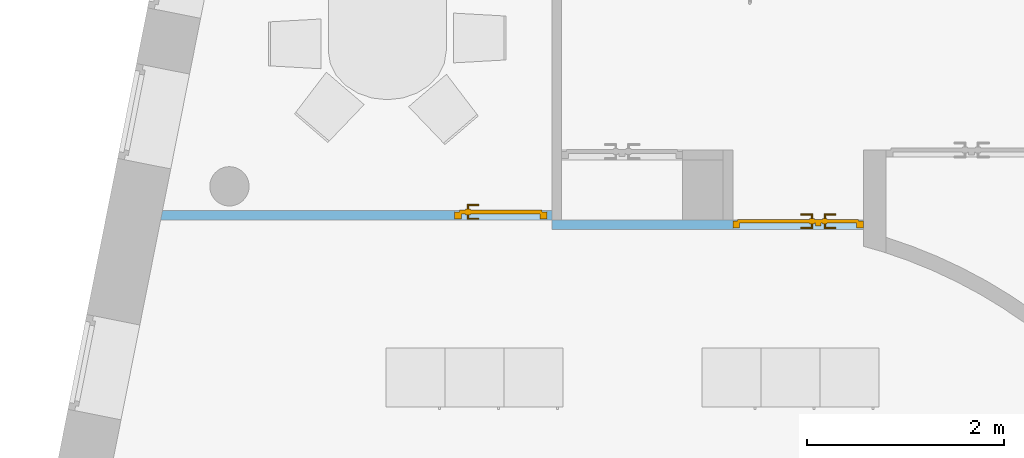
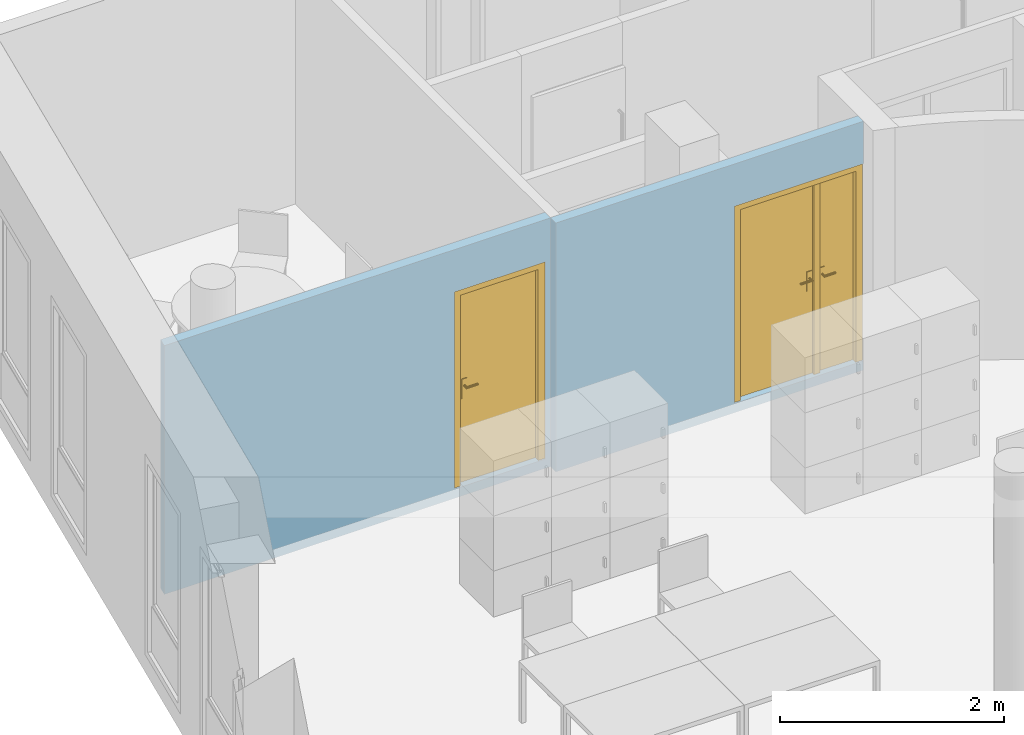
"""IFC4 building model written with IfcOpenShell, lengths in metres."""

from ifc_helpers import new_model, entity, si_unit, converted_unit, derived_unit, frame, frame_2d, origin, origin_with_axes, place, context, subcontext, project, spatial, polyline, rectangle, outline, extrude, faceted_brep, source, transform, mapped, material, layer, layer_set, layer_usage, element, fill, save


model = new_model("IFC4")

# Units and contexts
model_context = context("Model", 3, precision=1e-05, world=origin())
body_context = subcontext(model_context, "Body", "Model", "MODEL_VIEW")
ifc_project = project(units=[si_unit("LENGTHUNIT", "METRE"), si_unit("AREAUNIT", "SQUARE_METRE"), si_unit("VOLUMEUNIT", "CUBIC_METRE"), si_unit("MASSUNIT", "GRAM", prefix="KILO"), converted_unit("PLANEANGLEUNIT", "DEGREE", entity("IfcPlaneAngleMeasure", 0.0174532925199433), si_unit("PLANEANGLEUNIT", "RADIAN"), dimensions=[0, 0, 0, 0, 0, 0, 0]), derived_unit("THERMALTRANSMITTANCEUNIT", [(si_unit("POWERUNIT", "WATT"), 1), (si_unit("THERMODYNAMICTEMPERATUREUNIT", "KELVIN"), -1), (si_unit("LENGTHUNIT", "METRE"), -2)]), derived_unit("VOLUMETRICFLOWRATEUNIT", [(si_unit("LENGTHUNIT", "METRE"), 3), (converted_unit("TIMEUNIT", "hour", entity("IfcTimeMeasure", 3600.0), si_unit("TIMEUNIT", "SECOND"), dimensions=[0, 0, 1, 0, 0, 0, 0]), -1), (si_unit("LENGTHUNIT", "METRE"), -1)])], contexts=[model_context])

# Building, storeys
building_placement = place(None, origin())
building = spatial("IfcBuilding", under=ifc_project, at=building_placement, Name="HABITATGE PLURIFAMILIAR", CompositionType="ELEMENT")
storey_1_placement = place(building_placement, frame((0.0, 0.0, 15.28)))
storey_1 = spatial("IfcBuildingStorey", under=building, at=storey_1_placement, Name="PLANTA QUARTA", CompositionType="ELEMENT", Elevation=15.28)
storey_2_placement = place(storey_1_placement, frame((0.0, 0.0, 12.27)))
storey_2 = spatial("IfcBuildingStorey", under=storey_1, at=storey_2_placement, Name="NOU", CompositionType="PARTIAL")

# Wall, opening, door
ifc_material_1 = material()
ifc_layer_1 = layer(ifc_material_1, 0.1)
ifc_layer_set_1 = layer_set([ifc_layer_1])
ifc_layer_usage_1 = layer_usage(ifc_layer_set_1, "AXIS2", "POSITIVE", 0.0)
wall_1_placement = place(storey_2_placement, frame((404.336984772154, 23.4194598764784, -12.37)))
wall_1 = element("IfcWall", 1, at=wall_1_placement, inside=storey_2, material=ifc_layer_usage_1, Name="Evans P4", context=body_context, shape_type="SweptSolid", body=[
    extrude(rectangle(XDim=3.16904787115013, YDim=0.1, at=frame_2d((1.58452393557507, 0.05), x_axis=(1.0, 0.0))), origin_with_axes(), (0.0, 0.0, 1.0), 2.71),
])
opening_1_placement = place(wall_1_placement, frame((1.84, 0.0, 0.1), z_axis=(0.0, 1.0, 0.0), x_axis=(0.0, 0.0, 1.0)))
opening_1 = element("IfcOpeningElement", 2, at=opening_1_placement, cuts=wall_1, Name="Vano porta P4", ObjectType="Opening", context=body_context, shape_type="SweptSolid", body=[
    extrude(outline(polyline([(2.15, 1.32904787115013), (2.15, 0.0), (0.0, 0.0), (0.0, 1.32904787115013), (2.15, 1.32904787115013)])), origin_with_axes(), (0.0, 0.0, 1.0), 0.1),
])
shared_shape_1 = source(origin_with_axes(), body_context, "Body", "Brep", [
    faceted_brep([(0.0, 0.07, 2.15), (0.0, 0.07, 0.0), (0.07, 0.07, 0.0), (0.07, 0.07, 2.15), (0.0, 0.0, 0.0), (0.0, 0.0, 2.15), (0.07, 0.0, 2.15), (0.07, 0.0, 0.0)], [[[0, 1, 2, 3]], [[4, 5, 6, 7]], [[1, 0, 5, 4]], [[2, 1, 4, 7]], [[3, 2, 7, 6]], [[0, 3, 6, 5]]], orient=[[False], [False], [False], [False], [False], [False]]),
    faceted_brep([(1.25904787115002, 0.07, 2.15), (1.25904787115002, 0.07, 0.0), (1.32904787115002, 0.07, 0.0), (1.32904787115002, 0.07, 2.15), (1.25904787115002, 0.0, 0.0), (1.25904787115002, 0.0, 2.15), (1.32904787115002, 0.0, 2.15), (1.32904787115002, 0.0, 0.0)], [[[0, 1, 2, 3]], [[4, 5, 6, 7]], [[1, 0, 5, 4]], [[2, 1, 4, 7]], [[3, 2, 7, 6]], [[0, 3, 6, 5]]], orient=[[False], [False], [False], [False], [False], [False]]),
    faceted_brep([(0.07, 0.07, 2.15), (0.07, 0.07, 2.08), (1.25904787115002, 0.07, 2.08), (1.25904787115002, 0.07, 2.15), (0.07, 0.0, 2.08), (0.07, 0.0, 2.15), (1.25904787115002, 0.0, 2.15), (1.25904787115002, 0.0, 2.08)], [[[0, 1, 2, 3]], [[4, 5, 6, 7]], [[1, 0, 5, 4]], [[2, 1, 4, 7]], [[3, 2, 7, 6]], [[0, 3, 6, 5]]], orient=[[False], [False], [False], [False], [False], [False]]),
    faceted_brep([(0.05, 0.09, 2.1), (0.05, 0.09, 0.0), (0.87, 0.09, 0.0), (0.87, 0.09, 2.1), (0.05, 0.05, 0.0), (0.05, 0.05, 2.1), (0.87, 0.05, 2.1), (0.87, 0.05, 0.0)], [[[0, 1, 2, 3]], [[4, 5, 6, 7]], [[1, 0, 5, 4]], [[2, 1, 4, 7]], [[3, 2, 7, 6]], [[0, 3, 6, 5]]], orient=[[False], [False], [False], [False], [False], [False]]),
    faceted_brep([(0.84, 0.05, 2.08), (0.84, 0.05, 0.0), (0.9, 0.05, 0.0), (0.9, 0.05, 2.08), (0.84, 0.02, 0.0), (0.84, 0.02, 2.08), (0.9, 0.02, 2.08), (0.9, 0.02, 0.0)], [[[0, 1, 2, 3]], [[4, 5, 6, 7]], [[1, 0, 5, 4]], [[2, 1, 4, 7]], [[3, 2, 7, 6]], [[0, 3, 6, 5]]], orient=[[False], [False], [False], [False], [False], [False]]),
    faceted_brep([(0.78, 0.05, 1.125), (0.78, 0.05, 0.91), (0.83, 0.05, 0.91), (0.83, 0.05, 1.125), (0.78, 0.04, 0.91), (0.78, 0.04, 1.125), (0.83, 0.04, 1.125), (0.83, 0.04, 0.91)], [[[0, 1, 2, 3]], [[4, 5, 6, 7]], [[1, 0, 5, 4]], [[2, 1, 4, 7]], [[3, 2, 7, 6]], [[0, 3, 6, 5]]], orient=[[False], [False], [False], [False], [False], [False]]),
    faceted_brep([(0.805, 0.04, 1.06), (0.8, 0.04, 1.05866025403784), (0.796339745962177, 0.04, 1.055), (0.795, 0.04, 1.05), (0.796339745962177, 0.04, 1.045), (0.8, 0.04, 1.04133974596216), (0.805, 0.04, 1.04), (0.81, 0.04, 1.04133974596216), (0.813660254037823, 0.04, 1.045), (0.815, 0.04, 1.05), (0.813660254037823, 0.04, 1.055), (0.81, 0.04, 1.05866025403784), (0.81, -0.005, 1.05866025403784), (0.805, 0.0, 1.06), (0.813660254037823, -0.00866025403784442, 1.055), (0.815, -0.01, 1.05), (0.813660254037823, -0.00866025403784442, 1.045), (0.81, -0.005, 1.04133974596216), (0.805, 0.0, 1.04), (0.8, 0.005, 1.04133974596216), (0.796339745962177, 0.00866025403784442, 1.045), (0.795, 0.01, 1.05), (0.796339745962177, 0.00866025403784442, 1.055), (0.8, 0.005, 1.05866025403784), (0.69, 0.0, 1.06), (0.69, -0.005, 1.05866025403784), (0.69, -0.00866025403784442, 1.055), (0.69, -0.01, 1.05), (0.69, -0.00866025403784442, 1.045), (0.69, -0.005, 1.04133974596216), (0.69, 0.0, 1.04), (0.69, 0.005, 1.04133974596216), (0.69, 0.00866025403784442, 1.045), (0.69, 0.01, 1.05), (0.69, 0.00866025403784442, 1.055), (0.69, 0.005, 1.05866025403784)], [[[0, 1, 2, 3, 4, 5, 6, 7, 8, 9, 10, 11]], [[0, 11, 12, 13]], [[11, 10, 14, 12]], [[10, 9, 15, 14]], [[9, 8, 16, 15]], [[8, 7, 17, 16]], [[7, 6, 18, 17]], [[6, 5, 19, 18]], [[5, 4, 20, 19]], [[4, 3, 21, 20]], [[3, 2, 22, 21]], [[2, 1, 23, 22]], [[1, 0, 13, 23]], [[24, 25, 26, 27, 28, 29, 30, 31, 32, 33, 34, 35]], [[13, 12, 25, 24]], [[12, 14, 26, 25]], [[14, 15, 27, 26]], [[15, 16, 28, 27]], [[16, 17, 29, 28]], [[17, 18, 30, 29]], [[18, 19, 31, 30]], [[19, 20, 32, 31]], [[20, 21, 33, 32]], [[21, 22, 34, 33]], [[22, 23, 35, 34]], [[23, 13, 24, 35]]], orient=[[False], [False], [False], [False], [False], [False], [False], [False], [False], [False], [False], [False], [False], [False], [False], [False], [False], [False], [False], [False], [False], [False], [False], [False], [False], [False]]),
    faceted_brep([(0.78, 0.09, 1.125), (0.83, 0.09, 1.125), (0.83, 0.09, 0.91), (0.78, 0.09, 0.91), (0.78, 0.1, 0.91), (0.83, 0.1, 0.91), (0.83, 0.1, 1.125), (0.78, 0.1, 1.125)], [[[0, 1, 2, 3]], [[4, 5, 6, 7]], [[3, 4, 7, 0]], [[2, 5, 4, 3]], [[1, 6, 5, 2]], [[0, 7, 6, 1]]], orient=[[False], [False], [False], [False], [False], [False]]),
    faceted_brep([(0.805, 0.1, 1.06), (0.81, 0.1, 1.05866025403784), (0.813660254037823, 0.1, 1.055), (0.815, 0.1, 1.05), (0.813660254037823, 0.1, 1.045), (0.81, 0.1, 1.04133974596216), (0.805, 0.1, 1.04), (0.8, 0.1, 1.04133974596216), (0.796339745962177, 0.1, 1.045), (0.795, 0.1, 1.05), (0.796339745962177, 0.1, 1.055), (0.8, 0.1, 1.05866025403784), (0.805, 0.14, 1.06), (0.81, 0.145, 1.05866025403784), (0.813660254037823, 0.148660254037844, 1.055), (0.815, 0.15, 1.05), (0.813660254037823, 0.148660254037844, 1.045), (0.81, 0.145, 1.04133974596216), (0.805, 0.14, 1.04), (0.8, 0.135, 1.04133974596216), (0.796339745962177, 0.131339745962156, 1.045), (0.795, 0.13, 1.05), (0.796339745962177, 0.131339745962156, 1.055), (0.8, 0.135, 1.05866025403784), (0.69, 0.14, 1.06), (0.69, 0.135, 1.05866025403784), (0.69, 0.131339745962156, 1.055), (0.69, 0.13, 1.05), (0.69, 0.131339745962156, 1.045), (0.69, 0.135, 1.04133974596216), (0.69, 0.14, 1.04), (0.69, 0.145, 1.04133974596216), (0.69, 0.148660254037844, 1.045), (0.69, 0.15, 1.05), (0.69, 0.148660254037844, 1.055), (0.69, 0.145, 1.05866025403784)], [[[0, 1, 2, 3, 4, 5, 6, 7, 8, 9, 10, 11]], [[0, 12, 13, 1]], [[1, 13, 14, 2]], [[2, 14, 15, 3]], [[3, 15, 16, 4]], [[4, 16, 17, 5]], [[5, 17, 18, 6]], [[6, 18, 19, 7]], [[7, 19, 20, 8]], [[8, 20, 21, 9]], [[9, 21, 22, 10]], [[10, 22, 23, 11]], [[11, 23, 12, 0]], [[24, 25, 26, 27, 28, 29, 30, 31, 32, 33, 34, 35]], [[12, 24, 35, 13]], [[13, 35, 34, 14]], [[14, 34, 33, 15]], [[15, 33, 32, 16]], [[16, 32, 31, 17]], [[17, 31, 30, 18]], [[18, 30, 29, 19]], [[19, 29, 28, 20]], [[20, 28, 27, 21]], [[21, 27, 26, 22]], [[22, 26, 25, 23]], [[23, 25, 24, 12]]], orient=[[False], [False], [False], [False], [False], [False], [False], [False], [False], [False], [False], [False], [False], [False], [False], [False], [False], [False], [False], [False], [False], [False], [False], [False], [False], [False]]),
    faceted_brep([(0.871, 0.09, 2.1), (0.871, 0.09, 0.0), (1.27904787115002, 0.09, 0.0), (1.27904787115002, 0.09, 2.1), (0.871, 0.05, 0.0), (0.871, 0.05, 2.1), (1.27904787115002, 0.05, 2.1), (1.27904787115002, 0.05, 0.0)], [[[0, 1, 2, 3]], [[4, 5, 6, 7]], [[1, 0, 5, 4]], [[2, 1, 4, 7]], [[3, 2, 7, 6]], [[0, 3, 6, 5]]], orient=[[False], [False], [False], [False], [False], [False]]),
    faceted_brep([(0.911, 0.05, 1.125), (0.911, 0.05, 0.91), (0.961, 0.05, 0.91), (0.961, 0.05, 1.125), (0.911, 0.04, 0.91), (0.911, 0.04, 1.125), (0.961, 0.04, 1.125), (0.961, 0.04, 0.91)], [[[0, 1, 2, 3]], [[4, 5, 6, 7]], [[1, 0, 5, 4]], [[2, 1, 4, 7]], [[3, 2, 7, 6]], [[0, 3, 6, 5]]], orient=[[False], [False], [False], [False], [False], [False]]),
    faceted_brep([(0.936, 0.04, 1.06), (0.931, 0.04, 1.05866025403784), (0.927339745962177, 0.04, 1.055), (0.926, 0.04, 1.05), (0.927339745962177, 0.04, 1.045), (0.931, 0.04, 1.04133974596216), (0.936, 0.04, 1.04), (0.941, 0.04, 1.04133974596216), (0.944660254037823, 0.04, 1.045), (0.946, 0.04, 1.05), (0.944660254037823, 0.04, 1.055), (0.941, 0.04, 1.05866025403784), (0.936, 0.0, 1.06), (0.931, -0.005, 1.05866025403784), (0.927339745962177, -0.00866025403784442, 1.055), (0.926, -0.01, 1.05), (0.927339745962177, -0.00866025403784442, 1.045), (0.931, -0.005, 1.04133974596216), (0.936, 0.0, 1.04), (0.941, 0.005, 1.04133974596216), (0.944660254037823, 0.00866025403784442, 1.045), (0.946, 0.01, 1.05), (0.944660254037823, 0.00866025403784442, 1.055), (0.941, 0.005, 1.05866025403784), (1.051, 0.0, 1.06), (1.051, 0.005, 1.05866025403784), (1.051, 0.00866025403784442, 1.055), (1.051, 0.01, 1.05), (1.051, 0.00866025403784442, 1.045), (1.051, 0.005, 1.04133974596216), (1.051, 0.0, 1.04), (1.051, -0.005, 1.04133974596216), (1.051, -0.00866025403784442, 1.045), (1.051, -0.01, 1.05), (1.051, -0.00866025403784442, 1.055), (1.051, -0.005, 1.05866025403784)], [[[0, 1, 2, 3, 4, 5, 6, 7, 8, 9, 10, 11]], [[0, 12, 13, 1]], [[1, 13, 14, 2]], [[2, 14, 15, 3]], [[3, 15, 16, 4]], [[4, 16, 17, 5]], [[5, 17, 18, 6]], [[6, 18, 19, 7]], [[7, 19, 20, 8]], [[8, 20, 21, 9]], [[9, 21, 22, 10]], [[10, 22, 23, 11]], [[11, 23, 12, 0]], [[24, 25, 26, 27, 28, 29, 30, 31, 32, 33, 34, 35]], [[12, 24, 35, 13]], [[13, 35, 34, 14]], [[14, 34, 33, 15]], [[15, 33, 32, 16]], [[16, 32, 31, 17]], [[17, 31, 30, 18]], [[18, 30, 29, 19]], [[19, 29, 28, 20]], [[20, 28, 27, 21]], [[21, 27, 26, 22]], [[22, 26, 25, 23]], [[23, 25, 24, 12]]], orient=[[False], [False], [False], [False], [False], [False], [False], [False], [False], [False], [False], [False], [False], [False], [False], [False], [False], [False], [False], [False], [False], [False], [False], [False], [False], [False]]),
    faceted_brep([(0.911, 0.09, 1.125), (0.961, 0.09, 1.125), (0.961, 0.09, 0.91), (0.911, 0.09, 0.91), (0.911, 0.1, 0.91), (0.961, 0.1, 0.91), (0.961, 0.1, 1.125), (0.911, 0.1, 1.125)], [[[0, 1, 2, 3]], [[4, 5, 6, 7]], [[3, 4, 7, 0]], [[2, 5, 4, 3]], [[1, 6, 5, 2]], [[0, 7, 6, 1]]], orient=[[False], [False], [False], [False], [False], [False]]),
    faceted_brep([(0.936, 0.1, 1.06), (0.941, 0.1, 1.05866025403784), (0.944660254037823, 0.1, 1.055), (0.946, 0.1, 1.05), (0.944660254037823, 0.1, 1.045), (0.941, 0.1, 1.04133974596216), (0.936, 0.1, 1.04), (0.931, 0.1, 1.04133974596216), (0.927339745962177, 0.1, 1.045), (0.926, 0.1, 1.05), (0.927339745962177, 0.1, 1.055), (0.931, 0.1, 1.05866025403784), (0.931, 0.145, 1.05866025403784), (0.936, 0.14, 1.06), (0.927339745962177, 0.148660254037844, 1.055), (0.926, 0.15, 1.05), (0.927339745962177, 0.148660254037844, 1.045), (0.931, 0.145, 1.04133974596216), (0.936, 0.14, 1.04), (0.941, 0.135, 1.04133974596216), (0.944660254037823, 0.131339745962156, 1.045), (0.946, 0.13, 1.05), (0.944660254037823, 0.131339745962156, 1.055), (0.941, 0.135, 1.05866025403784), (1.051, 0.14, 1.06), (1.051, 0.145, 1.05866025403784), (1.051, 0.148660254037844, 1.055), (1.051, 0.15, 1.05), (1.051, 0.148660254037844, 1.045), (1.051, 0.145, 1.04133974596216), (1.051, 0.14, 1.04), (1.051, 0.135, 1.04133974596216), (1.051, 0.131339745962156, 1.045), (1.051, 0.13, 1.05), (1.051, 0.131339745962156, 1.055), (1.051, 0.135, 1.05866025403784)], [[[0, 1, 2, 3, 4, 5, 6, 7, 8, 9, 10, 11]], [[0, 11, 12, 13]], [[11, 10, 14, 12]], [[10, 9, 15, 14]], [[9, 8, 16, 15]], [[8, 7, 17, 16]], [[7, 6, 18, 17]], [[6, 5, 19, 18]], [[5, 4, 20, 19]], [[4, 3, 21, 20]], [[3, 2, 22, 21]], [[2, 1, 23, 22]], [[1, 0, 13, 23]], [[24, 25, 26, 27, 28, 29, 30, 31, 32, 33, 34, 35]], [[13, 12, 25, 24]], [[12, 14, 26, 25]], [[14, 15, 27, 26]], [[15, 16, 28, 27]], [[16, 17, 29, 28]], [[17, 18, 30, 29]], [[18, 19, 31, 30]], [[19, 20, 32, 31]], [[20, 21, 33, 32]], [[21, 22, 34, 33]], [[22, 23, 35, 34]], [[23, 13, 24, 35]]], orient=[[False], [False], [False], [False], [False], [False], [False], [False], [False], [False], [False], [False], [False], [False], [False], [False], [False], [False], [False], [False], [False], [False], [False], [False], [False], [False]]),
])
door_1_placement = place(opening_1_placement, frame((0.0, 0.0, 0.015), z_axis=(1.0, 0.0, 0.0), x_axis=(0.0, 1.0, 0.0)))
door_1 = element("IfcDoor", 3, at=door_1_placement, inside=storey_2, Name="Porta P4", OperationType="USERDEFINED", OverallHeight=2.15, OverallWidth=1.32905, PredefinedType="DOOR", context=body_context, shape_type="MappedRepresentation", body=[
    mapped(shared_shape_1, transform((0.0, 0.0, 0.0), x_axis=(1.0, 0.0, 0.0), y_axis=(0.0, 1.0, 0.0), z_axis=(0.0, 0.0, 1.0), scale=1.0)),
])
fill(opening_1, door_1)

ifc_material_2 = material()
ifc_layer_2 = layer(ifc_material_2, 0.1)
ifc_layer_set_2 = layer_set([ifc_layer_2])
ifc_layer_usage_2 = layer_usage(ifc_layer_set_2, "AXIS2", "POSITIVE", 0.0)
wall_2_placement = place(storey_2_placement, frame((404.336984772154, 23.6146518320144, -12.37), z_axis=(0.0, 0.0, 1.0), x_axis=(-1.0, 0.0, 0.0)))
wall_2 = element("IfcWall", 4, at=wall_2_placement, inside=storey_2, material=ifc_layer_usage_2, Name="Mampara P4", context=body_context, shape_type="SweptSolid", body=[
    extrude(outline(polyline([(-3.98044496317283, -0.1), (-0.0198126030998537, -0.1), (0.0, 0.0), (-3.98044496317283, 0.0), (-3.98044496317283, -0.1)])), frame((3.98044496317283, 0.1, 0.0), z_axis=(0.0, 0.0, 1.0), x_axis=(1.0, 0.0, 0.0)), (0.0, 0.0, 1.0), 2.71),
])
opening_2_placement = place(wall_2_placement, frame((0.05, 0.0, 0.1), z_axis=(0.0, 1.0, 0.0), x_axis=(0.0, 0.0, 1.0)))
opening_2 = element("IfcOpeningElement", 5, at=opening_2_placement, cuts=wall_2, Name="Vano porta P4", ObjectType="Opening", context=body_context, shape_type="SweptSolid", body=[
    extrude(outline(polyline([(2.15, 0.94), (2.15, 0.0), (0.0, 0.0), (0.0, 0.94), (2.15, 0.94)])), origin_with_axes(), (0.0, 0.0, 1.0), 0.1),
])
shared_shape_2 = source(origin_with_axes(), body_context, "Body", "Brep", [
    faceted_brep([(0.0, 0.07, 2.15), (0.0, 0.07, 0.0), (0.07, 0.07, 0.0), (0.07, 0.07, 2.15), (0.0, 0.0, 0.0), (0.0, 0.0, 2.15), (0.07, 0.0, 2.15), (0.07, 0.0, 0.0)], [[[0, 1, 2, 3]], [[4, 5, 6, 7]], [[1, 0, 5, 4]], [[2, 1, 4, 7]], [[3, 2, 7, 6]], [[0, 3, 6, 5]]], orient=[[False], [False], [False], [False], [False], [False]]),
    faceted_brep([(0.87, 0.07, 2.15), (0.87, 0.07, 0.0), (0.94, 0.07, 0.0), (0.94, 0.07, 2.15), (0.87, 0.0, 0.0), (0.87, 0.0, 2.15), (0.94, 0.0, 2.15), (0.94, 0.0, 0.0)], [[[0, 1, 2, 3]], [[4, 5, 6, 7]], [[1, 0, 5, 4]], [[2, 1, 4, 7]], [[3, 2, 7, 6]], [[0, 3, 6, 5]]], orient=[[False], [False], [False], [False], [False], [False]]),
    faceted_brep([(0.07, 0.07, 2.15), (0.07, 0.07, 2.08), (0.87, 0.07, 2.08), (0.87, 0.07, 2.15), (0.07, 0.0, 2.08), (0.07, 0.0, 2.15), (0.87, 0.0, 2.15), (0.87, 0.0, 2.08)], [[[0, 1, 2, 3]], [[4, 5, 6, 7]], [[1, 0, 5, 4]], [[2, 1, 4, 7]], [[3, 2, 7, 6]], [[0, 3, 6, 5]]], orient=[[False], [False], [False], [False], [False], [False]]),
    faceted_brep([(0.05, 0.09, 2.1), (0.05, 0.09, 0.0), (0.89, 0.09, 0.0), (0.89, 0.09, 2.1), (0.05, 0.05, 0.0), (0.05, 0.05, 2.1), (0.89, 0.05, 2.1), (0.89, 0.05, 0.0)], [[[0, 1, 2, 3]], [[4, 5, 6, 7]], [[1, 0, 5, 4]], [[2, 1, 4, 7]], [[3, 2, 7, 6]], [[0, 3, 6, 5]]], orient=[[False], [False], [False], [False], [False], [False]]),
    faceted_brep([(0.11, 0.05, 1.125), (0.11, 0.05, 0.91), (0.16, 0.05, 0.91), (0.16, 0.05, 1.125), (0.11, 0.04, 0.91), (0.11, 0.04, 1.125), (0.16, 0.04, 1.125), (0.16, 0.04, 0.91)], [[[0, 1, 2, 3]], [[4, 5, 6, 7]], [[1, 0, 5, 4]], [[2, 1, 4, 7]], [[3, 2, 7, 6]], [[0, 3, 6, 5]]], orient=[[False], [False], [False], [False], [False], [False]]),
    faceted_brep([(0.135, 0.04, 1.06), (0.13, 0.04, 1.05866025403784), (0.126339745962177, 0.04, 1.055), (0.125, 0.04, 1.05), (0.126339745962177, 0.04, 1.045), (0.13, 0.04, 1.04133974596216), (0.135, 0.04, 1.04), (0.14, 0.04, 1.04133974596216), (0.143660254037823, 0.04, 1.045), (0.145, 0.04, 1.05), (0.143660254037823, 0.04, 1.055), (0.14, 0.04, 1.05866025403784), (0.135, 0.0, 1.06), (0.13, -0.005, 1.05866025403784), (0.126339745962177, -0.00866025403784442, 1.055), (0.125, -0.01, 1.05), (0.126339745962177, -0.00866025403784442, 1.045), (0.13, -0.005, 1.04133974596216), (0.135, 0.0, 1.04), (0.14, 0.005, 1.04133974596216), (0.143660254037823, 0.00866025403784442, 1.045), (0.145, 0.01, 1.05), (0.143660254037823, 0.00866025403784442, 1.055), (0.14, 0.005, 1.05866025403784), (0.25, 0.0, 1.06), (0.25, 0.005, 1.05866025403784), (0.25, 0.00866025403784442, 1.055), (0.25, 0.01, 1.05), (0.25, 0.00866025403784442, 1.045), (0.25, 0.005, 1.04133974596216), (0.25, 0.0, 1.04), (0.25, -0.005, 1.04133974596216), (0.25, -0.00866025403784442, 1.045), (0.25, -0.01, 1.05), (0.25, -0.00866025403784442, 1.055), (0.25, -0.005, 1.05866025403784)], [[[0, 1, 2, 3, 4, 5, 6, 7, 8, 9, 10, 11]], [[0, 12, 13, 1]], [[1, 13, 14, 2]], [[2, 14, 15, 3]], [[3, 15, 16, 4]], [[4, 16, 17, 5]], [[5, 17, 18, 6]], [[6, 18, 19, 7]], [[7, 19, 20, 8]], [[8, 20, 21, 9]], [[9, 21, 22, 10]], [[10, 22, 23, 11]], [[11, 23, 12, 0]], [[24, 25, 26, 27, 28, 29, 30, 31, 32, 33, 34, 35]], [[12, 24, 35, 13]], [[13, 35, 34, 14]], [[14, 34, 33, 15]], [[15, 33, 32, 16]], [[16, 32, 31, 17]], [[17, 31, 30, 18]], [[18, 30, 29, 19]], [[19, 29, 28, 20]], [[20, 28, 27, 21]], [[21, 27, 26, 22]], [[22, 26, 25, 23]], [[23, 25, 24, 12]]], orient=[[False], [False], [False], [False], [False], [False], [False], [False], [False], [False], [False], [False], [False], [False], [False], [False], [False], [False], [False], [False], [False], [False], [False], [False], [False], [False]]),
    faceted_brep([(0.11, 0.09, 1.125), (0.16, 0.09, 1.125), (0.16, 0.09, 0.91), (0.11, 0.09, 0.91), (0.11, 0.1, 0.91), (0.16, 0.1, 0.91), (0.16, 0.1, 1.125), (0.11, 0.1, 1.125)], [[[0, 1, 2, 3]], [[4, 5, 6, 7]], [[3, 4, 7, 0]], [[2, 5, 4, 3]], [[1, 6, 5, 2]], [[0, 7, 6, 1]]], orient=[[False], [False], [False], [False], [False], [False]]),
    faceted_brep([(0.135, 0.1, 1.06), (0.14, 0.1, 1.05866025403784), (0.143660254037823, 0.1, 1.055), (0.145, 0.1, 1.05), (0.143660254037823, 0.1, 1.045), (0.14, 0.1, 1.04133974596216), (0.135, 0.1, 1.04), (0.13, 0.1, 1.04133974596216), (0.126339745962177, 0.1, 1.045), (0.125, 0.1, 1.05), (0.126339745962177, 0.1, 1.055), (0.13, 0.1, 1.05866025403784), (0.13, 0.145, 1.05866025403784), (0.135, 0.14, 1.06), (0.126339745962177, 0.148660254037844, 1.055), (0.125, 0.15, 1.05), (0.126339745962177, 0.148660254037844, 1.045), (0.13, 0.145, 1.04133974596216), (0.135, 0.14, 1.04), (0.14, 0.135, 1.04133974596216), (0.143660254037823, 0.131339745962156, 1.045), (0.145, 0.13, 1.05), (0.143660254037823, 0.131339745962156, 1.055), (0.14, 0.135, 1.05866025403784), (0.25, 0.14, 1.06), (0.25, 0.145, 1.05866025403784), (0.25, 0.148660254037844, 1.055), (0.25, 0.15, 1.05), (0.25, 0.148660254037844, 1.045), (0.25, 0.145, 1.04133974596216), (0.25, 0.14, 1.04), (0.25, 0.135, 1.04133974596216), (0.25, 0.131339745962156, 1.045), (0.25, 0.13, 1.05), (0.25, 0.131339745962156, 1.055), (0.25, 0.135, 1.05866025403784)], [[[0, 1, 2, 3, 4, 5, 6, 7, 8, 9, 10, 11]], [[0, 11, 12, 13]], [[11, 10, 14, 12]], [[10, 9, 15, 14]], [[9, 8, 16, 15]], [[8, 7, 17, 16]], [[7, 6, 18, 17]], [[6, 5, 19, 18]], [[5, 4, 20, 19]], [[4, 3, 21, 20]], [[3, 2, 22, 21]], [[2, 1, 23, 22]], [[1, 0, 13, 23]], [[24, 25, 26, 27, 28, 29, 30, 31, 32, 33, 34, 35]], [[13, 12, 25, 24]], [[12, 14, 26, 25]], [[14, 15, 27, 26]], [[15, 16, 28, 27]], [[16, 17, 29, 28]], [[17, 18, 30, 29]], [[18, 19, 31, 30]], [[19, 20, 32, 31]], [[20, 21, 33, 32]], [[21, 22, 34, 33]], [[22, 23, 35, 34]], [[23, 13, 24, 35]]], orient=[[False], [False], [False], [False], [False], [False], [False], [False], [False], [False], [False], [False], [False], [False], [False], [False], [False], [False], [False], [False], [False], [False], [False], [False], [False], [False]]),
])
door_2_placement = place(opening_2_placement, frame((0.0, 0.94, 0.085), z_axis=(1.0, 0.0, 0.0), x_axis=(0.0, -1.0, 0.0)))
door_2 = element("IfcDoor", 6, at=door_2_placement, inside=storey_2, Name="Porta P4", OperationType="USERDEFINED", OverallHeight=2.15, OverallWidth=0.94, PredefinedType="DOOR", context=body_context, shape_type="MappedRepresentation", body=[
    mapped(shared_shape_2, transform((0.0, 0.0, 0.0), x_axis=(1.0, 0.0, 0.0), y_axis=(0.0, 1.0, 0.0), z_axis=(0.0, 0.0, 1.0), scale=1.0)),
])
fill(opening_2, door_2)

save(model, "model.ifc")
